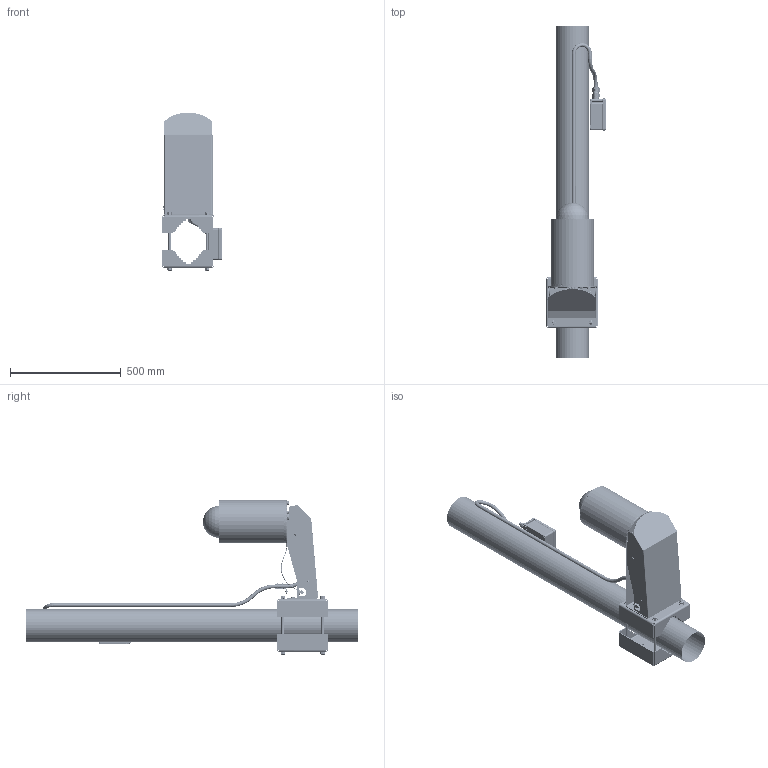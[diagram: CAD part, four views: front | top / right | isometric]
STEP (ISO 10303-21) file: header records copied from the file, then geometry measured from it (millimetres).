
FILE_DESCRIPTION(/* description */ (''),/* implementation_level */ '2;1');
FILE_NAME(/* name */ 'C:\Users\Sebastian Weber\Desktop\WMB ExCam IPQ6045; 6055 Verbau Mast ExTB3.stp',/* time_stamp */ '2018-06-04T11:49:13+02:00',/* author */ ('Sebastian Weber'),/* organization */ (''),/* preprocessor_version */ 'ST-DEVELOPER v17',/* originating_system */ 'Autodesk Inventor 2018',/* authorisation */ '');
FILE_SCHEMA (('AUTOMOTIVE_DESIGN { 1 0 10303 214 3 1 1 }'));
Products named in the file (62): WMB ExCam IPQ6045 Komplett_rev.03; WMB ExCam IPQ6045 (Abl. AmEx); WMB ExCam IPQ6045 (Abl. AmEx) Rippe; WMB ExDome strain relief_rev.00; ISO 7380-1 - M5 x 8; WPR ExCam IPQ6045 rev.01; ExDome_(Technor Gehäuse); XCD-28-2 Sheet 1 Ex e (Abdeckung)_rev.1; Schraube-RDX A4-70; XCD-35-2 Sheet 1 (Rumpf); XCD-49-2 Sheet 1 Top for dome; O-Ring KLE Flansch; XCD-195 Compund; O-Ring Kuppel; XCD-46-2 (Kuppel); M4x1,5 Madenschraube; Mastmontageadapter ExCamIPQ6045, AmEx PTZ; Threaded rods GB_T 15389-1994 M12 x 1.5 x 260; Mast 150; Mastmontageadapter ExCamIPQ6045, AmEx PTZ_1; ISO 4032 - M12; DIN 125 - A 13; safity wire 3mmx500mm; DIN 933 - M8  x 12; DIN 125 - A 8,4; ISO 4017 - M10 x 25; DIN 125 - A 10,5; ISO 4032 - M10; 8292-12-SS-M20x1,5; KLE ADE 4F M20 (Ex d) 13,5-21mm armiert; ASKDP02 (EXCAM XPT Q6055 & WMB & PMB); Kabelbinder; 8118 Gr.3; 8118 Gr.3_1; Deckel 8118 Gr.3; Hutschiene 12cm; Screw GB/T 2672 M3 x 8; pxc_3209536_15_PT-2-5-PE_3D; PT_2.5_PE-select; pxc_3030417_05_D-ST-2-5_3D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
Assembly tree (136 placements, depth 2):
  WMB ExCam IPQ6045 Komplett_rev.03
    WMB ExCam IPQ6045 (Abl. AmEx)
    WMB ExCam IPQ6045 (Abl. AmEx) Rippe  x2
    WMB ExDome strain relief_rev.00
    ISO 7380-1 - M5 x 8  x6
    WPR ExCam IPQ6045 rev.01
Bounding box: 268.7 x 1500 x 716.81 mm (x, y, z)
Volume: 4562607.4 mm3; surface area: 2952110.2 mm2
Topology: 127 solids, 128 shells, 8403 faces, 22644 edges, 15061 vertices
Faces by surface type: plane 4875, cylinder 1634, bspline 1150, cone 447, torus 281, sphere 16
Full cylindrical faces by diameter (mm): 2.5 x6, 2.675 x2, 2.8 x2, 3 x10, 3.2 x6, 3.242 x1, 3.571 x4, 4 x7, 4.134 x8, 4.5 x5, 4.9 x1, 4.917 x5, 5 x6, 5.2 x2, 5.6 x2, 6 x7, 6.647 x6, 7 x8, 7.323 x6, 8 x12, 8.2 x5, 8.376 x4, 8.4 x6, 9.5 x6, 10 x6, 10.1 x8, 10.106 x8, 10.5 x16, 11 x4, 11.4 x6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
Entity records: 201530 total; most frequent: CARTESIAN_POINT 82763, ORIENTED_EDGE 25268, DIRECTION 21470, EDGE_CURVE 12636, VERTEX_POINT 8170, LINE 7542, VECTOR 7542, AXIS2_PLACEMENT_3D 6964
